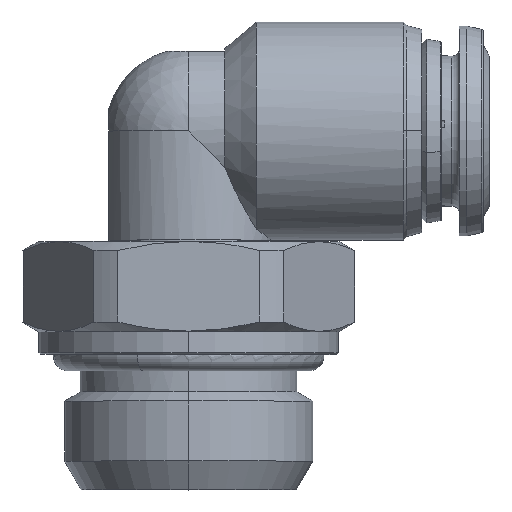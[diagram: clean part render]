
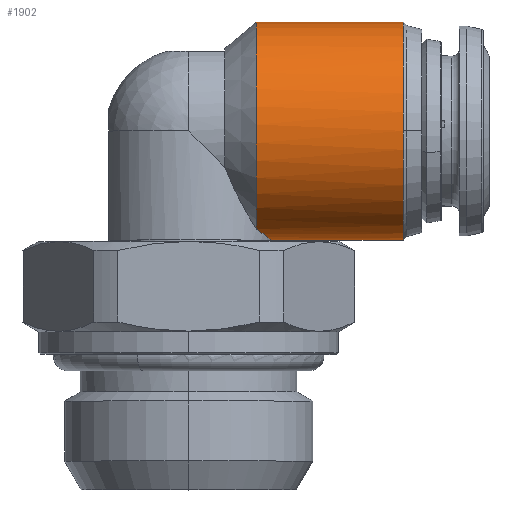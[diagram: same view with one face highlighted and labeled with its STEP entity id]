
A CAD part, top view. The second image highlights one B-rep face of the part: STEP entity #1902.
In plain terms, the highlighted cylindrical face has radius 7.25 mm (diameter 14.5 mm), a partial arc.
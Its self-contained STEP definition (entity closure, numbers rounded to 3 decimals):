
#49 = CARTESIAN_POINT ( 'NONE',  ( 4.5, 14.5, 0. ) ) ;
#76 = CARTESIAN_POINT ( 'NONE',  ( 14.268, 0., 0. ) ) ;
#214 = ORIENTED_EDGE ( 'NONE', *, *, #369, .T. ) ;
#217 = CARTESIAN_POINT ( 'NONE',  ( 14.268, 7.25, 7.25 ) ) ;
#222 = DIRECTION ( 'NONE',  ( 0., 1., 0. ) ) ;
#324 = VERTEX_POINT ( 'NONE', #2788 ) ;
#369 = EDGE_CURVE ( 'NONE', #1590, #1102, #843, .T. ) ;
#372 = ORIENTED_EDGE ( 'NONE', *, *, #3055, .T. ) ;
#394 = EDGE_CURVE ( 'NONE', #1102, #2822, #1980, .T. ) ;
#439 = CARTESIAN_POINT ( 'NONE',  ( 4.794, 0.52, 2.71 ) ) ;
#454 = CARTESIAN_POINT ( 'NONE',  ( 5.387, 0.085, 1.145 ) ) ;
#528 = CIRCLE ( 'NONE', #2609, 7.25 ) ;
#607 = EDGE_CURVE ( 'NONE', #2822, #3345, #851, .T. ) ;
#718 = CARTESIAN_POINT ( 'NONE',  ( 5.321, 0.135, 1.42 ) ) ;
#736 = CARTESIAN_POINT ( 'NONE',  ( 4.5, 0.726, 3.162 ) ) ;
#843 = LINE ( 'NONE', #1970, #1464 ) ;
#851 = CIRCLE ( 'NONE', #1408, 7.25 ) ;
#998 = LINE ( 'NONE', #2585, #1535 ) ;
#1006 = CARTESIAN_POINT ( 'NONE',  ( 14.268, 7.25, 0. ) ) ;
#1102 = VERTEX_POINT ( 'NONE', #76 ) ;
#1106 = ORIENTED_EDGE ( 'NONE', *, *, #607, .T. ) ;
#1212 = CARTESIAN_POINT ( 'NONE',  ( 14.268, 14.5, 0. ) ) ;
#1318 = ORIENTED_EDGE ( 'NONE', *, *, #394, .T. ) ;
#1353 = CARTESIAN_POINT ( 'NONE',  ( 5.5, 0., 0. ) ) ;
#1399 = DIRECTION ( 'NONE',  ( 0., 0., 1. ) ) ;
#1408 = AXIS2_PLACEMENT_3D ( 'NONE', #1006, #3444, #1857 ) ;
#1438 = DIRECTION ( 'NONE',  ( 1., 0., 0. ) ) ;
#1464 = VECTOR ( 'NONE', #1438, 1000. ) ;
#1535 = VECTOR ( 'NONE', #3155, 1000. ) ;
#1554 = CYLINDRICAL_SURFACE ( 'NONE', #2833, 7.25 ) ;
#1590 = VERTEX_POINT ( 'NONE', #1353 ) ;
#1653 = EDGE_LOOP ( 'NONE', ( #1735, #214, #1318, #1106, #2857, #372 ) ) ;
#1675 = CARTESIAN_POINT ( 'NONE',  ( 14.268, 7.25, 0. ) ) ;
#1735 = ORIENTED_EDGE ( 'NONE', *, *, #3416, .T. ) ;
#1796 = CARTESIAN_POINT ( 'NONE',  ( 5.477, 0.018, 0.582 ) ) ;
#1816 = CARTESIAN_POINT ( 'NONE',  ( 5.5, 0., 0.291 ) ) ;
#1827 = EDGE_CURVE ( 'NONE', #2924, #3345, #998, .T. ) ;
#1836 = CARTESIAN_POINT ( 'NONE',  ( 5.5, 0., 0. ) ) ;
#1857 = DIRECTION ( 'NONE',  ( 0., 0., 1. ) ) ;
#1902 = ADVANCED_FACE ( 'NONE', ( #2045 ), #1554, .T. ) ;
#1970 = CARTESIAN_POINT ( 'NONE',  ( 15.5, 0., 0. ) ) ;
#1980 = CIRCLE ( 'NONE', #2080, 7.25 ) ;
#2045 = FACE_OUTER_BOUND ( 'NONE', #1653, .T. ) ;
#2062 = DIRECTION ( 'NONE',  ( 0., 1., 0. ) ) ;
#2080 = AXIS2_PLACEMENT_3D ( 'NONE', #1675, #2750, #1399 ) ;
#2129 = CARTESIAN_POINT ( 'NONE',  ( 5.04, 0.343, 2.219 ) ) ;
#2565 = DIRECTION ( 'NONE',  ( 1., 0., 0. ) ) ;
#2585 = CARTESIAN_POINT ( 'NONE',  ( 15.5, 14.5, 0. ) ) ;
#2605 = CARTESIAN_POINT ( 'NONE',  ( 15.5, 7.25, 0. ) ) ;
#2609 = AXIS2_PLACEMENT_3D ( 'NONE', #3429, #2565, #222 ) ;
#2663 = CARTESIAN_POINT ( 'NONE',  ( 4.655, 0.619, 2.942 ) ) ;
#2750 = DIRECTION ( 'NONE',  ( -1., 0., 0. ) ) ;
#2788 = CARTESIAN_POINT ( 'NONE',  ( 4.5, 0.726, 3.162 ) ) ;
#2822 = VERTEX_POINT ( 'NONE', #217 ) ;
#2833 = AXIS2_PLACEMENT_3D ( 'NONE', #2605, #3454, #2062 ) ;
#2857 = ORIENTED_EDGE ( 'NONE', *, *, #1827, .F. ) ;
#2924 = VERTEX_POINT ( 'NONE', #49 ) ;
#2927 = CARTESIAN_POINT ( 'NONE',  ( 5.148, 0.264, 1.958 ) ) ;
#3055 = EDGE_CURVE ( 'NONE', #2924, #324, #528, .T. ) ;
#3155 = DIRECTION ( 'NONE',  ( 1., 0., 0. ) ) ;
#3181 = B_SPLINE_CURVE_WITH_KNOTS ( 'NONE', 3,
 ( #736, #2663, #439, #2129, #2927, #718, #454, #1796, #1816, #1836 ),
 .UNSPECIFIED., .F., .F.,
 ( 4, 2, 2, 2, 4 ),
 ( 0.024, 0.024, 0.025, 0.026, 0.027 ),
 .UNSPECIFIED. ) ;
#3345 = VERTEX_POINT ( 'NONE', #1212 ) ;
#3416 = EDGE_CURVE ( 'NONE', #324, #1590, #3181, .T. ) ;
#3429 = CARTESIAN_POINT ( 'NONE',  ( 4.5, 7.25, 0. ) ) ;
#3444 = DIRECTION ( 'NONE',  ( -1., 0., 0. ) ) ;
#3454 = DIRECTION ( 'NONE',  ( 1., 0., 0. ) ) ;
